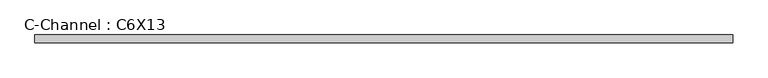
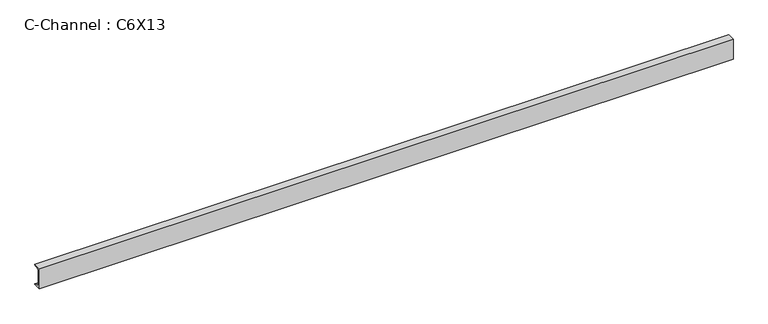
"""IFC4 building model written with IfcOpenShell, lengths in millimetres: beam geometry, C-Channel : C6X13."""

from ifc_helpers import new_model, si_unit, point, frame, frame_2d, origin, place, context, project, spatial, polyline, circle_curve, trimmed, segment, composite_curve, outline, extrude, source, transform, mapped, element, save


def c_channel_c6x13_e813588d(model_context):
    return source(origin(), model_context, "Body", "SweptSolid", [
        extrude(outline(composite_curve([segment(polyline([(-13.0556, 76.2), (41.8084, 76.2)]), True, "CONTINUOUS"), segment(trimmed(circle_curve(frame_2d((33.0962, 76.2)), 8.7122), [point((41.8084, 76.2))], [point((33.0962, 67.4878))], False, "CARTESIAN"), True, "CONTINUOUS"), segment(polyline([(33.0962, 67.4878), (-1.9558, 61.9361086), (-1.9558, -61.9361086), (33.0962, -67.4878)]), True, "CONTINUOUS"), segment(trimmed(circle_curve(frame_2d((33.0962, -76.2)), 8.7122), [point((33.0962, -67.4878))], [point((41.8084, -76.2))], False, "CARTESIAN"), True, "CONTINUOUS"), segment(polyline([(41.8084, -76.2), (-13.0556, -76.2), (-13.0556, 76.2)]), True, "CONTINUOUS")], self_intersect=False)), frame((-2487.3009793, 0.0, 0.0), z_axis=(1.0, 0.0, 0.0), x_axis=(0.0, 1.0, 0.0)), (0.0, 0.0, 1.0), 4974.5876814),
    ])


if __name__ == "__main__":
    model = new_model("IFC4")
    model_context = context("Model", 3, world=origin())
    ifc_project = project(units=[si_unit("LENGTHUNIT", "METRE", prefix="MILLI")], contexts=[model_context])
    site = spatial("IfcSite", under=ifc_project)
    building = spatial("IfcBuilding", under=site)
    placement = place(None, origin())
    c_channel_c6x13_shape = c_channel_c6x13_e813588d(model_context)
    element("IfcBeam", 1, ObjectType="C-Channel : C6X13", at=placement, inside=building, context=model_context, shape_type="MappedRepresentation", body=[
        mapped(c_channel_c6x13_shape, transform((0.0, 0.0, 0.0), x_axis=(1.0, 0.0, 0.0), y_axis=(0.0, 1.0, 0.0), z_axis=(0.0, 0.0, 1.0))),
    ])
    save(model, "model.ifc")
